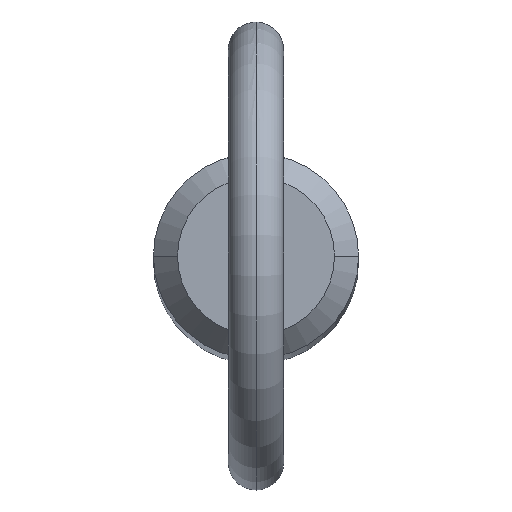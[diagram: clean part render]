
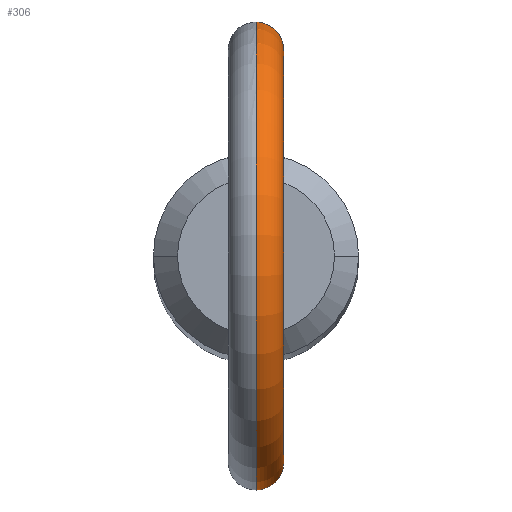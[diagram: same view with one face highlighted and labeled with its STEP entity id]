
A CAD part, top view. The second image highlights one B-rep face of the part: STEP entity #306.
In plain terms, the highlighted toroidal (fillet/blend) face has major radius 11.2 mm and minor radius 1.5 mm.
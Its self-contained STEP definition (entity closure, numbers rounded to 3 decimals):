
#10 = CARTESIAN_POINT ( 'NONE',  ( 1.194, 5.422, 151.272 ) ) ;
#12 = VERTEX_POINT ( 'NONE', #141 ) ;
#13 = CARTESIAN_POINT ( 'NONE',  ( 1.251, 5.407, 149.25 ) ) ;
#14 = CARTESIAN_POINT ( 'NONE',  ( 1.509, 5.341, 150.053 ) ) ;
#22 = DIRECTION ( 'NONE',  ( 1., 0., 0. ) ) ;
#25 = CARTESIAN_POINT ( 'NONE',  ( 0., -5.55, 152.045 ) ) ;
#27 = CARTESIAN_POINT ( 'NONE',  ( 1.5, -5.343, 150.054 ) ) ;
#30 = CARTESIAN_POINT ( 'NONE',  ( 0.214, -5.547, 152.028 ) ) ;
#51 = CARTESIAN_POINT ( 'NONE',  ( 0.933, 5.472, 151.604 ) ) ;
#59 = EDGE_CURVE ( 'NONE', #266, #525, #477, .T. ) ;
#66 = CARTESIAN_POINT ( 'NONE',  ( 0.417, -5.535, 151.967 ) ) ;
#69 = CARTESIAN_POINT ( 'NONE',  ( 1.455, -5.356, 149.738 ) ) ;
#76 = ORIENTED_EDGE ( 'NONE', *, *, #59, .F. ) ;
#77 = CIRCLE ( 'NONE', #323, 12.7 ) ;
#88 = CARTESIAN_POINT ( 'NONE',  ( 1.003, 5.459, 151.525 ) ) ;
#89 = CARTESIAN_POINT ( 'NONE',  ( 0., 0., 160. ) ) ;
#91 = CARTESIAN_POINT ( 'NONE',  ( 0.694, 5.507, 151.814 ) ) ;
#108 = CARTESIAN_POINT ( 'NONE',  ( 0.977, -5.464, 148.932 ) ) ;
#110 = CARTESIAN_POINT ( 'NONE',  ( 0.807, -5.492, 148.806 ) ) ;
#130 = DIRECTION ( 'NONE',  ( 1., 0., 0. ) ) ;
#141 = CARTESIAN_POINT ( 'NONE',  ( 0., 5.55, 148.577 ) ) ;
#144 = CARTESIAN_POINT ( 'NONE',  ( 0.786, -5.497, 151.757 ) ) ;
#148 = CARTESIAN_POINT ( 'NONE',  ( 0.716, -5.504, 148.752 ) ) ;
#172 = CARTESIAN_POINT ( 'NONE',  ( 0.213, 5.55, 152.045 ) ) ;
#185 = CARTESIAN_POINT ( 'NONE',  ( 0.523, -5.526, 148.666 ) ) ;
#187 = CARTESIAN_POINT ( 'NONE',  ( 1.503, -5.343, 150.159 ) ) ;
#192 = CARTESIAN_POINT ( 'NONE',  ( 1.363, -5.38, 149.434 ) ) ;
#195 = CARTESIAN_POINT ( 'NONE',  ( 0., -5.55, 148.577 ) ) ;
#210 = ORIENTED_EDGE ( 'NONE', *, *, #441, .T. ) ;
#212 = CARTESIAN_POINT ( 'NONE',  ( 0.107, 5.55, 148.577 ) ) ;
#214 = CARTESIAN_POINT ( 'NONE',  ( 0., 0., 160. ) ) ;
#217 = CARTESIAN_POINT ( 'NONE',  ( 1.44, 5.36, 150.688 ) ) ;
#237 = CARTESIAN_POINT ( 'NONE',  ( 0., -5.55, 148.577 ) ) ;
#241 = CARTESIAN_POINT ( 'NONE',  ( 0.106, -5.55, 152.045 ) ) ;
#254 = CARTESIAN_POINT ( 'NONE',  ( 0.984, 5.464, 148.924 ) ) ;
#255 = CARTESIAN_POINT ( 'NONE',  ( 1.485, 5.348, 150.478 ) ) ;
#257 = CARTESIAN_POINT ( 'NONE',  ( 0., 5.55, 152.045 ) ) ;
#259 = EDGE_LOOP ( 'NONE', ( #422, #210, #76, #458 ) ) ;
#266 = VERTEX_POINT ( 'NONE', #375 ) ;
#269 = CARTESIAN_POINT ( 'NONE',  ( 0.213, -5.547, 148.588 ) ) ;
#296 = CARTESIAN_POINT ( 'NONE',  ( 0., 5.55, 148.577 ) ) ;
#301 = AXIS2_PLACEMENT_3D ( 'NONE', #214, #338, #411 ) ;
#306 = ADVANCED_FACE ( 'NONE', ( #371 ), #433, .T. ) ;
#319 = EDGE_CURVE ( 'NONE', #491, #266, #418, .T. ) ;
#320 = EDGE_CURVE ( 'NONE', #12, #491, #510, .T. ) ;
#323 = AXIS2_PLACEMENT_3D ( 'NONE', #340, #22, #385 ) ;
#333 = CARTESIAN_POINT ( 'NONE',  ( 0.212, 5.547, 148.588 ) ) ;
#336 = CARTESIAN_POINT ( 'NONE',  ( 1.486, 5.348, 149.838 ) ) ;
#338 = DIRECTION ( 'NONE',  ( 1., 0., 0. ) ) ;
#340 = CARTESIAN_POINT ( 'NONE',  ( 0., 0., 160. ) ) ;
#349 = CARTESIAN_POINT ( 'NONE',  ( 0.107, -5.55, 148.577 ) ) ;
#351 = CARTESIAN_POINT ( 'NONE',  ( 1.44, -5.36, 150.686 ) ) ;
#356 = CARTESIAN_POINT ( 'NONE',  ( 1.26, -5.407, 149.243 ) ) ;
#371 = FACE_OUTER_BOUND ( 'NONE', #259, .T. ) ;
#375 = CARTESIAN_POINT ( 'NONE',  ( 0., -5.55, 152.045 ) ) ;
#377 = CARTESIAN_POINT ( 'NONE',  ( 1.19, 5.421, 149.162 ) ) ;
#379 = CARTESIAN_POINT ( 'NONE',  ( 0.422, 5.537, 151.978 ) ) ;
#381 = CARTESIAN_POINT ( 'NONE',  ( 0.419, 5.535, 148.632 ) ) ;
#385 = DIRECTION ( 'NONE',  ( 0., 0., -1. ) ) ;
#393 = CARTESIAN_POINT ( 'NONE',  ( 1.194, -5.422, 151.271 ) ) ;
#399 = CARTESIAN_POINT ( 'NONE',  ( 1.477, -5.35, 149.844 ) ) ;
#400 = CARTESIAN_POINT ( 'NONE',  ( 1.486, -5.347, 150.474 ) ) ;
#411 = DIRECTION ( 'NONE',  ( 0., 0., -1. ) ) ;
#416 = CARTESIAN_POINT ( 'NONE',  ( 1.294, 5.398, 151.085 ) ) ;
#418 = CIRCLE ( 'NONE', #301, 9.7 ) ;
#420 = CARTESIAN_POINT ( 'NONE',  ( 0.81, 5.494, 148.795 ) ) ;
#422 = ORIENTED_EDGE ( 'NONE', *, *, #320, .F. ) ;
#423 = CARTESIAN_POINT ( 'NONE',  ( 0., 5.55, 152.045 ) ) ;
#428 = CARTESIAN_POINT ( 'NONE',  ( 1.055, -5.449, 149.005 ) ) ;
#432 = CARTESIAN_POINT ( 'NONE',  ( 0.941, -5.471, 151.607 ) ) ;
#433 = TOROIDAL_SURFACE ( 'NONE', #508, 11.2, 1.5 ) ;
#435 = CARTESIAN_POINT ( 'NONE',  ( 1.295, -5.397, 151.082 ) ) ;
#437 = CARTESIAN_POINT ( 'NONE',  ( 0.515, -5.527, 151.922 ) ) ;
#441 = EDGE_CURVE ( 'NONE', #12, #525, #77, .T. ) ;
#455 = CARTESIAN_POINT ( 'NONE',  ( 1.352, 5.383, 149.435 ) ) ;
#457 = CARTESIAN_POINT ( 'NONE',  ( 1.393, 5.372, 149.533 ) ) ;
#458 = ORIENTED_EDGE ( 'NONE', *, *, #319, .F. ) ;
#459 = DIRECTION ( 'NONE',  ( 0., 0., -1. ) ) ;
#477 = B_SPLINE_CURVE_WITH_KNOTS ( 'NONE', 3,
 ( #25, #241, #30, #66, #437, #144, #432, #393, #435, #351, #400, #187, #27, #399, #69, #192, #356, #428, #108, #110, #148, #185, #480, #269, #349, #237 ),
 .UNSPECIFIED., .F., .F.,
 ( 4, 2, 2, 2, 2, 2, 2, 2, 2, 2, 2, 2, 4 ),
 ( 0.005, 0.005, 0.005, 0.006, 0.006, 0.007, 0.007, 0.008, 0.008, 0.009, 0.009, 0.009, 0.01 ),
 .UNSPECIFIED. ) ;
#480 = CARTESIAN_POINT ( 'NONE',  ( 0.421, -5.535, 148.632 ) ) ;
#491 = VERTEX_POINT ( 'NONE', #423 ) ;
#496 = CARTESIAN_POINT ( 'NONE',  ( 0.522, 5.526, 148.665 ) ) ;
#498 = CARTESIAN_POINT ( 'NONE',  ( 0.779, 5.496, 151.748 ) ) ;
#508 = AXIS2_PLACEMENT_3D ( 'NONE', #89, #130, #459 ) ;
#510 = B_SPLINE_CURVE_WITH_KNOTS ( 'NONE', 3,
 ( #296, #212, #333, #381, #496, #420, #254, #377, #13, #455, #457, #336, #14, #255, #217, #416, #10, #88, #51, #498, #91, #379, #172, #257 ),
 .UNSPECIFIED., .F., .F.,
 ( 4, 2, 2, 2, 2, 2, 2, 2, 2, 2, 2, 4 ),
 ( 0.001, 0.001, 0.001, 0.002, 0.002, 0.002, 0.003, 0.004, 0.004, 0.005, 0.005, 0.006 ),
 .UNSPECIFIED. ) ;
#525 = VERTEX_POINT ( 'NONE', #195 ) ;
